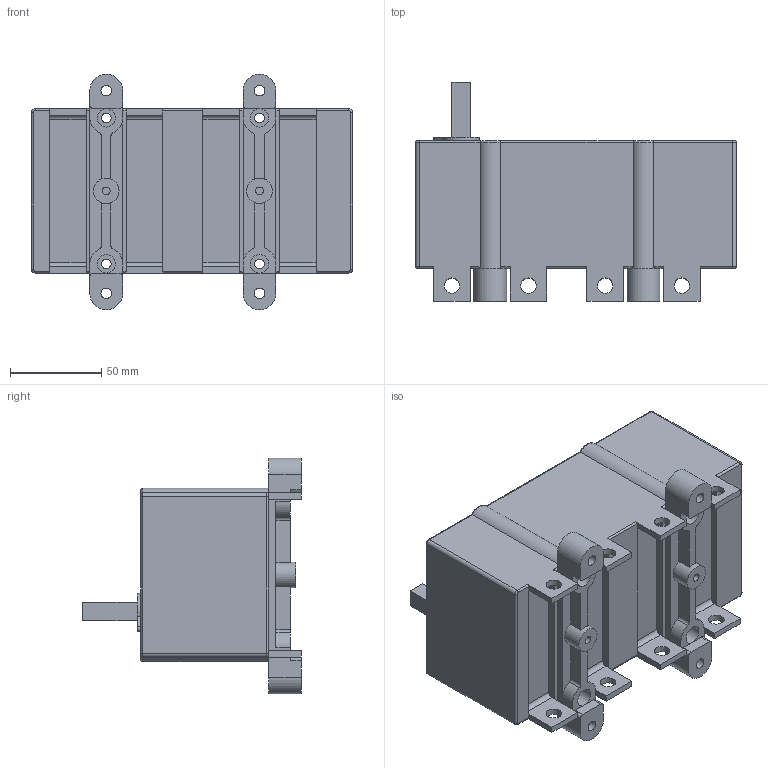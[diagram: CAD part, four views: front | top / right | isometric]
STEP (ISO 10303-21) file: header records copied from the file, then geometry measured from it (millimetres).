
FILE_DESCRIPTION(/* description */ (''),/* implementation_level */ '2;1');
FILE_NAME(/* name */ 'RA250 P3 NC.stp',/* time_stamp */ '2021-08-18T08:35:26+02:00',/* author */ (''),/* organization */ (''),/* preprocessor_version */ 'ST-DEVELOPER v18.1',/* originating_system */ 'SIEMENS PLM Software NX 1965',/* authorisation */ '');
FILE_SCHEMA (('AUTOMOTIVE_DESIGN { 1 0 10303 214 3 1 1 1 }'));
Length unit declared in the file: millimetre
Products named in the file (1): RA250 P3 NC_stp
Bounding box: 176 x 120 x 129.18 mm (x, y, z)
Volume: 1132277.4 mm3; surface area: 99547.7 mm2
Topology: 1 solids, 1 shells, 222 faces, 594 edges, 382 vertices
Faces by surface type: plane 112, cylinder 98, torus 7, bspline 5
Full cylindrical faces by diameter (mm): 4.3 x2, 5.3 x4, 5.8 x4, 8.5 x8, 10 x8, 14 x2
Entity records: 6831 total; most frequent: CARTESIAN_POINT 1298, DIRECTION 1168, ORIENTED_EDGE 1100, EDGE_CURVE 550, AXIS2_PLACEMENT_3D 416, VERTEX_POINT 366, LINE 336, VECTOR 336
